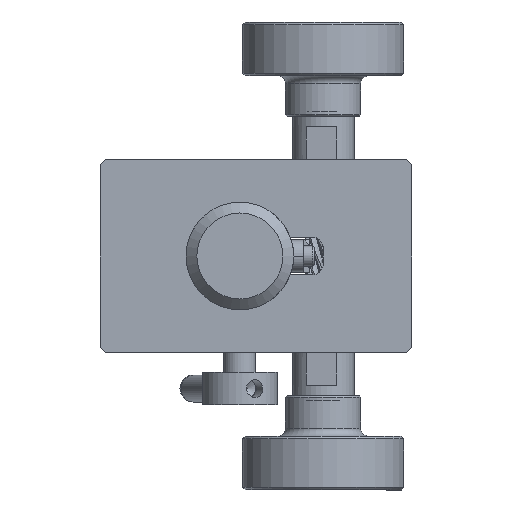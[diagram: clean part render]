
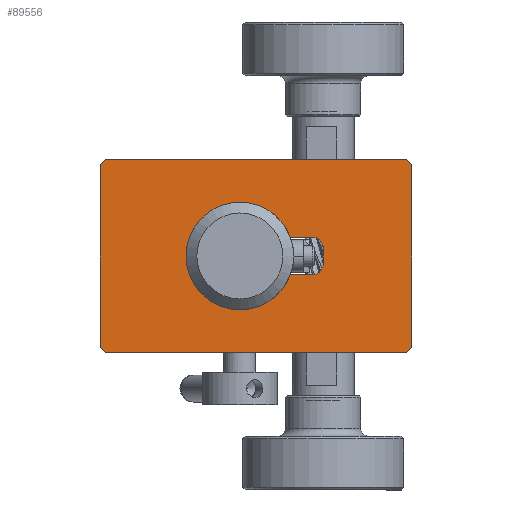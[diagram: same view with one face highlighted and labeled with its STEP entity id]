
A CAD part, front view. The second image highlights one B-rep face of the part: STEP entity #89556.
In plain terms, the highlighted planar face has unit normal (0, -1, 0).
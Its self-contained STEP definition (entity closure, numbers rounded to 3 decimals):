
#32 = VECTOR ( 'NONE', #72330, 1000. ) ;
#956 = CARTESIAN_POINT ( 'NONE',  ( 54.374, -21.381, 107.208 ) ) ;
#2527 = ORIENTED_EDGE ( 'NONE', *, *, #122978, .T. ) ;
#7095 = EDGE_CURVE ( 'NONE', #40821, #70775, #23416, .T. ) ;
#8005 = ORIENTED_EDGE ( 'NONE', *, *, #114428, .T. ) ;
#9000 = CARTESIAN_POINT ( 'NONE',  ( 37.874, -21.381, 88.708 ) ) ;
#13701 = LINE ( 'NONE', #119306, #118487 ) ;
#13745 = EDGE_CURVE ( 'NONE', #122465, #70775, #99497, .T. ) ;
#14241 = VECTOR ( 'NONE', #89827, 1000. ) ;
#15169 = CARTESIAN_POINT ( 'NONE',  ( 37.874, -21.381, 91.708 ) ) ;
#16541 = VECTOR ( 'NONE', #113498, 1000. ) ;
#18604 = EDGE_CURVE ( 'NONE', #40821, #52190, #63951, .T. ) ;
#22743 = EDGE_CURVE ( 'NONE', #122465, #122442, #64923, .T. ) ;
#23003 = DIRECTION ( 'NONE',  ( 0., 1., 0. ) ) ;
#23181 = VECTOR ( 'NONE', #113721, 1000. ) ;
#23416 = LINE ( 'NONE', #62717, #103133 ) ;
#25050 = ORIENTED_EDGE ( 'NONE', *, *, #34245, .T. ) ;
#28104 = DIRECTION ( 'NONE',  ( 0., 0., -1. ) ) ;
#29630 = EDGE_CURVE ( 'NONE', #45555, #52371, #42733, .T. ) ;
#31870 = LINE ( 'NONE', #93105, #23181 ) ;
#34245 = EDGE_CURVE ( 'NONE', #86926, #62033, #83493, .T. ) ;
#35139 = CARTESIAN_POINT ( 'NONE',  ( -3.626, -21.381, 73.208 ) ) ;
#37005 = ORIENTED_EDGE ( 'NONE', *, *, #7095, .T. ) ;
#37124 = DIRECTION ( 'NONE',  ( 0., 0., -1. ) ) ;
#38206 = CIRCLE ( 'NONE', #112603, 10. ) ;
#38455 = LINE ( 'NONE', #87715, #127234 ) ;
#38759 = CARTESIAN_POINT ( 'NONE',  ( 53.374, -21.381, 72.208 ) ) ;
#40821 = VERTEX_POINT ( 'NONE', #35139 ) ;
#42733 = CIRCLE ( 'NONE', #51261, 2. ) ;
#44341 = CARTESIAN_POINT ( 'NONE',  ( 53.374, -21.381, 72.208 ) ) ;
#44433 = CIRCLE ( 'NONE', #97504, 2. ) ;
#45555 = VERTEX_POINT ( 'NONE', #63660 ) ;
#47470 = CARTESIAN_POINT ( 'NONE',  ( 54.374, -21.381, 72.208 ) ) ;
#48794 = PLANE ( 'NONE',  #62615 ) ;
#48978 = VECTOR ( 'NONE', #130763, 1000. ) ;
#49572 = EDGE_CURVE ( 'NONE', #98233, #63636, #44433, .T. ) ;
#51261 = AXIS2_PLACEMENT_3D ( 'NONE', #73618, #23003, #106188 ) ;
#51756 = EDGE_LOOP ( 'NONE', ( #65598, #84348, #123070, #37005, #117720, #84672, #123656, #25050 ) ) ;
#52190 = VERTEX_POINT ( 'NONE', #64437 ) ;
#52371 = VERTEX_POINT ( 'NONE', #15169 ) ;
#53962 = CARTESIAN_POINT ( 'NONE',  ( -3.626, -21.381, 72.208 ) ) ;
#54257 = DIRECTION ( 'NONE',  ( -1., 0., 0. ) ) ;
#55822 = ORIENTED_EDGE ( 'NONE', *, *, #29630, .T. ) ;
#56163 = FACE_BOUND ( 'NONE', #118187, .T. ) ;
#57995 = CARTESIAN_POINT ( 'NONE',  ( 35.874, -21.381, 88.708 ) ) ;
#62033 = VERTEX_POINT ( 'NONE', #62593 ) ;
#62593 = CARTESIAN_POINT ( 'NONE',  ( 53.374, -21.381, 108.208 ) ) ;
#62615 = AXIS2_PLACEMENT_3D ( 'NONE', #47470, #96742, #89389 ) ;
#62717 = CARTESIAN_POINT ( 'NONE',  ( -3.626, -21.381, 73.208 ) ) ;
#62824 = DIRECTION ( 'NONE',  ( -0.707, 0., 0.707 ) ) ;
#63636 = VERTEX_POINT ( 'NONE', #73756 ) ;
#63660 = CARTESIAN_POINT ( 'NONE',  ( 35.874, -21.381, 93.708 ) ) ;
#63688 = LINE ( 'NONE', #125603, #94544 ) ;
#63951 = LINE ( 'NONE', #53962, #102178 ) ;
#64437 = CARTESIAN_POINT ( 'NONE',  ( -3.626, -21.381, 107.208 ) ) ;
#64923 = LINE ( 'NONE', #44341, #32 ) ;
#65555 = ORIENTED_EDGE ( 'NONE', *, *, #49572, .T. ) ;
#65598 = ORIENTED_EDGE ( 'NONE', *, *, #75952, .F. ) ;
#65872 = CARTESIAN_POINT ( 'NONE',  ( -2.626, -21.381, 72.208 ) ) ;
#68637 = DIRECTION ( 'NONE',  ( -1., 0., 0. ) ) ;
#70775 = VERTEX_POINT ( 'NONE', #65872 ) ;
#72278 = VECTOR ( 'NONE', #62824, 1000. ) ;
#72330 = DIRECTION ( 'NONE',  ( 0.707, 0., 0.707 ) ) ;
#73618 = CARTESIAN_POINT ( 'NONE',  ( 35.874, -21.381, 91.708 ) ) ;
#73756 = CARTESIAN_POINT ( 'NONE',  ( 35.874, -21.381, 86.708 ) ) ;
#74350 = DIRECTION ( 'NONE',  ( 1., 0., 0. ) ) ;
#75465 = CARTESIAN_POINT ( 'NONE',  ( 54.374, -21.381, 107.208 ) ) ;
#75952 = EDGE_CURVE ( 'NONE', #106061, #62033, #83576, .T. ) ;
#77385 = CARTESIAN_POINT ( 'NONE',  ( 54.374, -21.381, 73.208 ) ) ;
#79128 = ORIENTED_EDGE ( 'NONE', *, *, #131057, .T. ) ;
#83493 = LINE ( 'NONE', #956, #72278 ) ;
#83576 = LINE ( 'NONE', #102848, #16541 ) ;
#84348 = ORIENTED_EDGE ( 'NONE', *, *, #103578, .T. ) ;
#84672 = ORIENTED_EDGE ( 'NONE', *, *, #22743, .T. ) ;
#86926 = VERTEX_POINT ( 'NONE', #75465 ) ;
#87529 = EDGE_CURVE ( 'NONE', #93171, #45555, #63688, .T. ) ;
#87715 = CARTESIAN_POINT ( 'NONE',  ( 37.874, -21.381, 93.708 ) ) ;
#87760 = ORIENTED_EDGE ( 'NONE', *, *, #87529, .T. ) ;
#88598 = DIRECTION ( 'NONE',  ( 0., 1., 0. ) ) ;
#89389 = DIRECTION ( 'NONE',  ( -1., 0., 0. ) ) ;
#89556 = ADVANCED_FACE ( 'NONE', ( #56163, #129331 ), #48794, .F. ) ;
#89827 = DIRECTION ( 'NONE',  ( -0.707, 0., -0.707 ) ) ;
#90163 = CARTESIAN_POINT ( 'NONE',  ( 54.374, -21.381, 72.208 ) ) ;
#93008 = VERTEX_POINT ( 'NONE', #119762 ) ;
#93105 = CARTESIAN_POINT ( 'NONE',  ( 31.742, -21.381, 86.708 ) ) ;
#93171 = VERTEX_POINT ( 'NONE', #99788 ) ;
#94544 = VECTOR ( 'NONE', #74350, 1000. ) ;
#96742 = DIRECTION ( 'NONE',  ( 0., 1., 0. ) ) ;
#97504 = AXIS2_PLACEMENT_3D ( 'NONE', #57995, #88598, #68637 ) ;
#98233 = VERTEX_POINT ( 'NONE', #9000 ) ;
#99135 = CARTESIAN_POINT ( 'NONE',  ( -2.626, -21.381, 108.208 ) ) ;
#99497 = LINE ( 'NONE', #90163, #48978 ) ;
#99788 = CARTESIAN_POINT ( 'NONE',  ( 31.742, -21.381, 93.708 ) ) ;
#101773 = LINE ( 'NONE', #99135, #14241 ) ;
#102178 = VECTOR ( 'NONE', #109127, 1000. ) ;
#102848 = CARTESIAN_POINT ( 'NONE',  ( 54.374, -21.381, 108.208 ) ) ;
#103133 = VECTOR ( 'NONE', #103312, 1000. ) ;
#103312 = DIRECTION ( 'NONE',  ( 0.707, 0., -0.707 ) ) ;
#103578 = EDGE_CURVE ( 'NONE', #106061, #52190, #101773, .T. ) ;
#103581 = CARTESIAN_POINT ( 'NONE',  ( -2.626, -21.381, 108.208 ) ) ;
#106061 = VERTEX_POINT ( 'NONE', #103581 ) ;
#106188 = DIRECTION ( 'NONE',  ( -1., 0., 0. ) ) ;
#106723 = EDGE_CURVE ( 'NONE', #86926, #122442, #13701, .T. ) ;
#109127 = DIRECTION ( 'NONE',  ( 0., 0., 1. ) ) ;
#112603 = AXIS2_PLACEMENT_3D ( 'NONE', #113518, #112875, #54257 ) ;
#112875 = DIRECTION ( 'NONE',  ( 0., 1., 0. ) ) ;
#113498 = DIRECTION ( 'NONE',  ( 1., 0., 0. ) ) ;
#113518 = CARTESIAN_POINT ( 'NONE',  ( 22.374, -21.381, 90.208 ) ) ;
#113721 = DIRECTION ( 'NONE',  ( -1., 0., 0. ) ) ;
#114428 = EDGE_CURVE ( 'NONE', #52371, #98233, #38455, .T. ) ;
#117720 = ORIENTED_EDGE ( 'NONE', *, *, #13745, .F. ) ;
#118187 = EDGE_LOOP ( 'NONE', ( #79128, #87760, #55822, #8005, #65555, #2527 ) ) ;
#118487 = VECTOR ( 'NONE', #28104, 1000. ) ;
#119306 = CARTESIAN_POINT ( 'NONE',  ( 54.374, -21.381, 72.208 ) ) ;
#119762 = CARTESIAN_POINT ( 'NONE',  ( 31.742, -21.381, 86.708 ) ) ;
#122442 = VERTEX_POINT ( 'NONE', #77385 ) ;
#122465 = VERTEX_POINT ( 'NONE', #38759 ) ;
#122978 = EDGE_CURVE ( 'NONE', #63636, #93008, #31870, .T. ) ;
#123070 = ORIENTED_EDGE ( 'NONE', *, *, #18604, .F. ) ;
#123656 = ORIENTED_EDGE ( 'NONE', *, *, #106723, .F. ) ;
#125603 = CARTESIAN_POINT ( 'NONE',  ( 31.742, -21.381, 93.708 ) ) ;
#127234 = VECTOR ( 'NONE', #37124, 1000. ) ;
#129331 = FACE_OUTER_BOUND ( 'NONE', #51756, .T. ) ;
#130763 = DIRECTION ( 'NONE',  ( -1., 0., 0. ) ) ;
#131057 = EDGE_CURVE ( 'NONE', #93008, #93171, #38206, .T. ) ;
